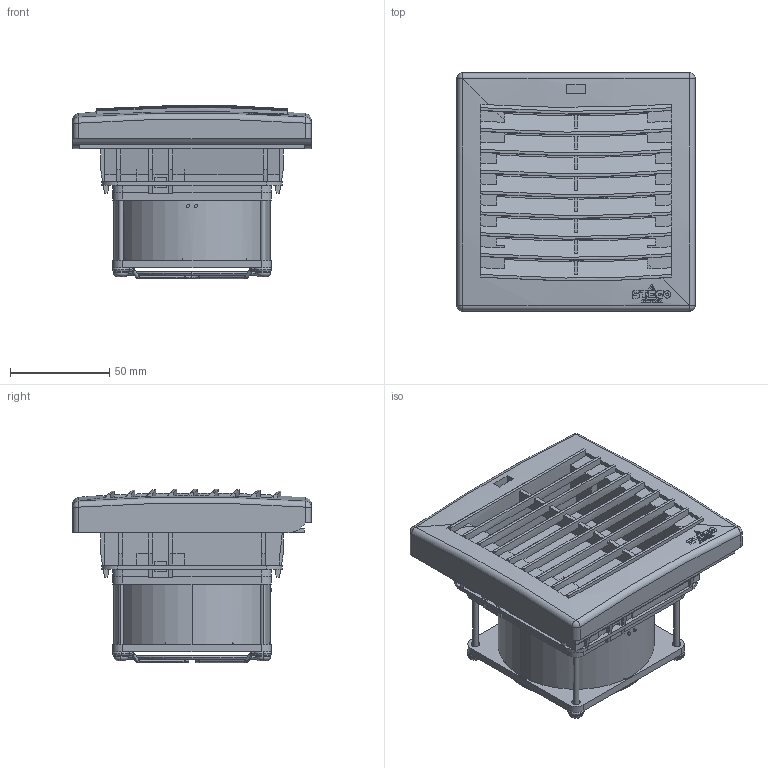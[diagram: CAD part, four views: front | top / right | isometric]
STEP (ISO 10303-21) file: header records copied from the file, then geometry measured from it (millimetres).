
FILE_DESCRIPTION (( 'STEP AP214' ), '1' );
FILE_NAME ('FPI_018_AC_92x92_EPLAN_10_2015.STEP', '2015-10-16T09:58:25', ( 'Admin' ), ( 'Hewlett-Packard Company' ), 'SwSTEP 2.0', 'SolidWorks 2015', '' );
FILE_SCHEMA (( 'AUTOMOTIVE_DESIGN' ));
Length unit declared in the file: millimetre
Products named in the file (1): FPI_018_AC_92x92_EPLAN_10_2015
Bounding box: 120 x 120 x 87.44 mm (x, y, z)
Surface area: 121937.6 mm2 (no closed solid volume)
Topology: 0 solids, 30 shells, 761 faces, 2676 edges, 1863 vertices
Faces by surface type: plane 345, cylinder 208, torus 94, sphere 61, bspline 45, cone 8
Entity records: 40851 total; most frequent: CARTESIAN_POINT 10045, ORIENTED_EDGE 4573, DIRECTION 4552, EDGE_CURVE 2671, VERTEX_POINT 1863, AXIS2_PLACEMENT_3D 1657, VECTOR 1238, LINE 1238
